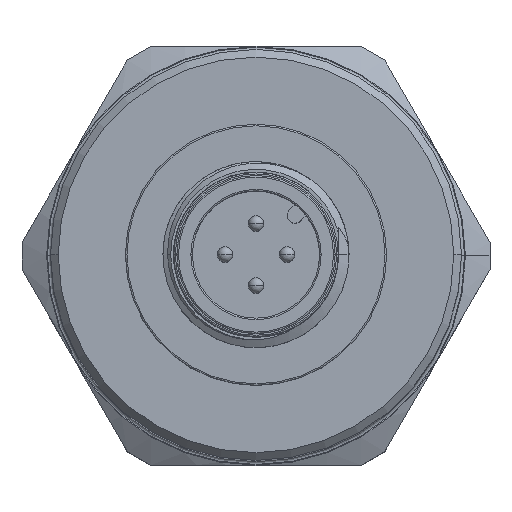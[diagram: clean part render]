
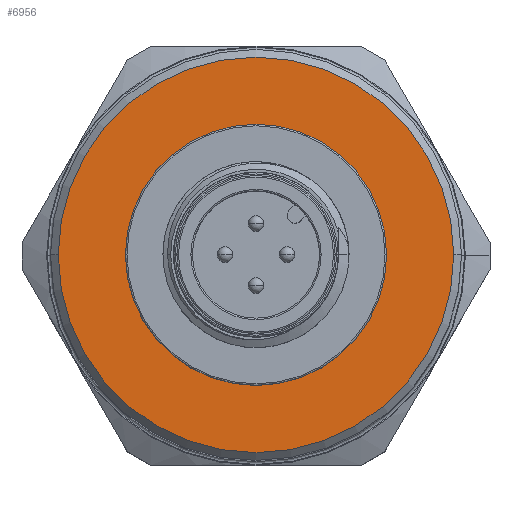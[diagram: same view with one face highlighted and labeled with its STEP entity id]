
A CAD part, top view. The second image highlights one B-rep face of the part: STEP entity #6956.
In plain terms, the highlighted planar face has unit normal (0, 0, 1).
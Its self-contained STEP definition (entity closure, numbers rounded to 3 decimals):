
#11 = ORIENTED_EDGE ( 'NONE', *, *, #348, .T. ) ;
#212 = CIRCLE ( 'NONE', #4213, 8.42 ) ;
#236 = ORIENTED_EDGE ( 'NONE', *, *, #6567, .F. ) ;
#348 = EDGE_CURVE ( 'NONE', #793, #4245, #1244, .T. ) ;
#417 = VERTEX_POINT ( 'NONE', #633 ) ;
#633 = CARTESIAN_POINT ( 'NONE',  ( 8.42, 0., 45. ) ) ;
#744 = FACE_OUTER_BOUND ( 'NONE', #6636, .T. ) ;
#762 = DIRECTION ( 'NONE',  ( 0., 0., 1. ) ) ;
#772 = CARTESIAN_POINT ( 'NONE',  ( 0., 0., 45. ) ) ;
#793 = VERTEX_POINT ( 'NONE', #3768 ) ;
#1244 = CIRCLE ( 'NONE', #2043, 12.75 ) ;
#1416 = CARTESIAN_POINT ( 'NONE',  ( 0., 0., 45. ) ) ;
#1684 = ORIENTED_EDGE ( 'NONE', *, *, #6835, .T. ) ;
#1948 = CIRCLE ( 'NONE', #5928, 8.42 ) ;
#2043 = AXIS2_PLACEMENT_3D ( 'NONE', #1416, #2949, #3542 ) ;
#2373 = CARTESIAN_POINT ( 'NONE',  ( -12.75, 0., 45. ) ) ;
#2377 = EDGE_LOOP ( 'NONE', ( #236, #4511 ) ) ;
#2813 = CARTESIAN_POINT ( 'NONE',  ( 0., 0., 45. ) ) ;
#2851 = DIRECTION ( 'NONE',  ( 1., 0., 0. ) ) ;
#2927 = DIRECTION ( 'NONE',  ( 0., 0., 1. ) ) ;
#2949 = DIRECTION ( 'NONE',  ( 0., 0., 1. ) ) ;
#2982 = DIRECTION ( 'NONE',  ( 0., 0., 1. ) ) ;
#3201 = AXIS2_PLACEMENT_3D ( 'NONE', #6148, #762, #3930 ) ;
#3532 = CIRCLE ( 'NONE', #3201, 12.75 ) ;
#3542 = DIRECTION ( 'NONE',  ( 1., 0., 0. ) ) ;
#3768 = CARTESIAN_POINT ( 'NONE',  ( 12.75, 0., 45. ) ) ;
#3840 = CARTESIAN_POINT ( 'NONE',  ( -8.42, 0., 45. ) ) ;
#3930 = DIRECTION ( 'NONE',  ( 1., 0., 0. ) ) ;
#4101 = DIRECTION ( 'NONE',  ( 1., 0., 0. ) ) ;
#4213 = AXIS2_PLACEMENT_3D ( 'NONE', #5685, #2982, #4101 ) ;
#4245 = VERTEX_POINT ( 'NONE', #2373 ) ;
#4442 = VERTEX_POINT ( 'NONE', #3840 ) ;
#4511 = ORIENTED_EDGE ( 'NONE', *, *, #5787, .F. ) ;
#4922 = PLANE ( 'NONE',  #5382 ) ;
#5066 = FACE_BOUND ( 'NONE', #2377, .T. ) ;
#5382 = AXIS2_PLACEMENT_3D ( 'NONE', #2813, #5387, #2851 ) ;
#5387 = DIRECTION ( 'NONE',  ( 0., 0., 1. ) ) ;
#5685 = CARTESIAN_POINT ( 'NONE',  ( 0., 0., 45. ) ) ;
#5787 = EDGE_CURVE ( 'NONE', #417, #4442, #212, .T. ) ;
#5928 = AXIS2_PLACEMENT_3D ( 'NONE', #772, #2927, #6616 ) ;
#6148 = CARTESIAN_POINT ( 'NONE',  ( 0., 0., 45. ) ) ;
#6567 = EDGE_CURVE ( 'NONE', #4442, #417, #1948, .T. ) ;
#6616 = DIRECTION ( 'NONE',  ( 1., 0., 0. ) ) ;
#6636 = EDGE_LOOP ( 'NONE', ( #1684, #11 ) ) ;
#6835 = EDGE_CURVE ( 'NONE', #4245, #793, #3532, .T. ) ;
#6956 = ADVANCED_FACE ( 'NONE', ( #5066, #744 ), #4922, .T. ) ;
